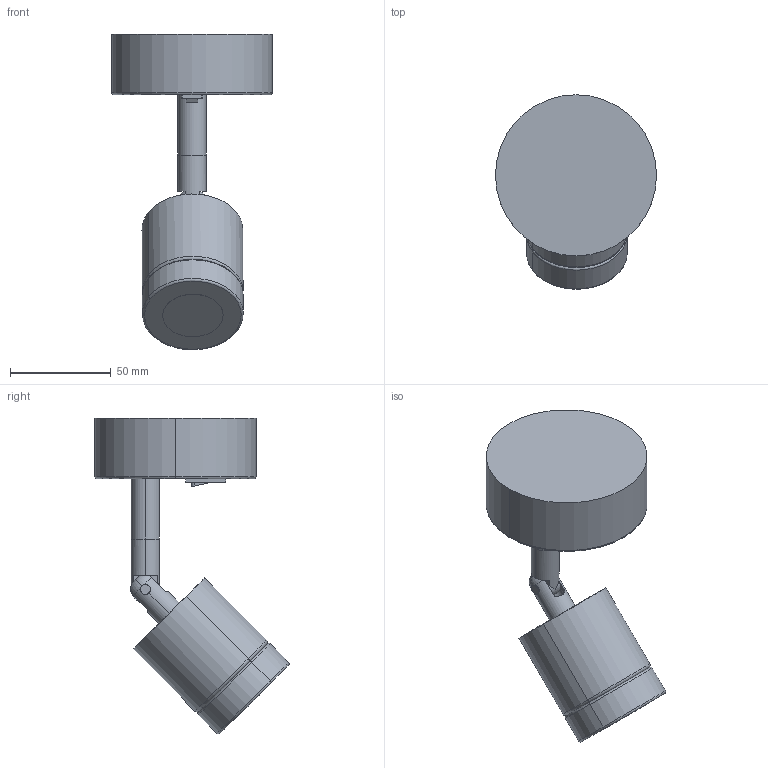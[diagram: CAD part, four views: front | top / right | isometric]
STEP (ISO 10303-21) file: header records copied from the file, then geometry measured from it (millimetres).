
FILE_DESCRIPTION (( 'STEP AP214' ), '1' );
FILE_NAME ('TEA_A1337.STEP', '2025-03-06T15:50:25', ( '' ), ( '' ), 'SwSTEP 2.0', 'SolidWorks 2018', '' );
FILE_SCHEMA (( 'AUTOMOTIVE_DESIGN' ));
Length unit declared in the file: millimetre
Products named in the file (1): TEA_A1337
Bounding box: 80 x 96.37 x 156.73 mm (x, y, z)
Volume: 249476.2 mm3; surface area: 47216.6 mm2
Topology: 9 solids, 10 shells, 111 faces, 249 edges, 152 vertices
Faces by surface type: cylinder 49, plane 38, torus 20, sphere 4
Entity records: 4748 total; most frequent: CARTESIAN_POINT 943, DIRECTION 545, ORIENTED_EDGE 490, EDGE_CURVE 245, AXIS2_PLACEMENT_3D 224, VERTEX_POINT 152, UNCERTAINTY_MEASURE_WITH_UNIT 122, SURFACE_SIDE_STYLE 121
